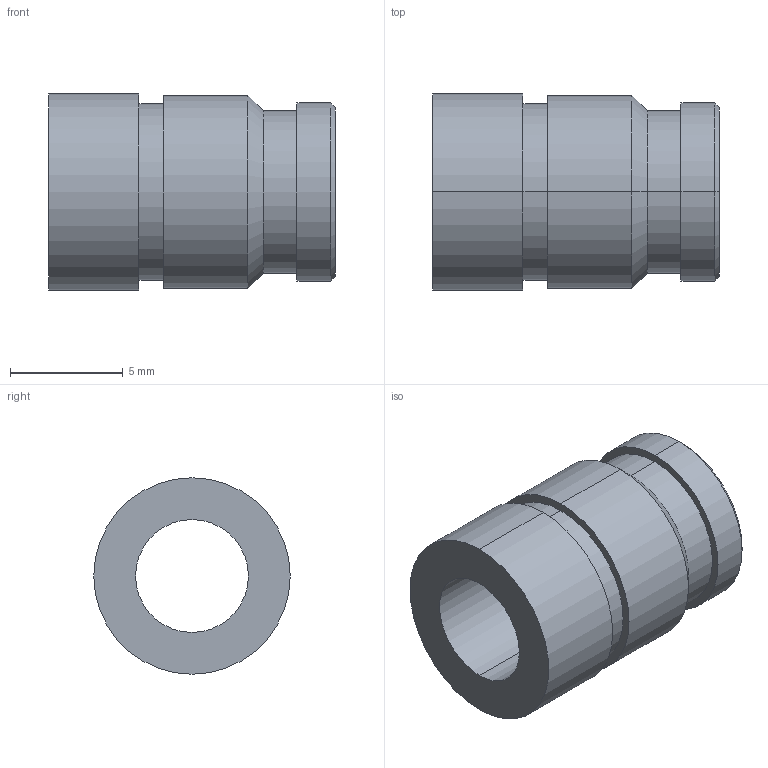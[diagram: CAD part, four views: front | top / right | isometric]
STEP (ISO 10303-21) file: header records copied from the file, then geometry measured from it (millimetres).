
FILE_DESCRIPTION (( 'STEP AP203' ), '1' );
FILE_NAME ('FSUK-HIS-M06-S.STEP', '2021-04-15T08:44:28', ( '' ), ( '' ), 'SwSTEP 2.0', 'SolidWorks 2021', '' );
FILE_SCHEMA (( 'CONFIG_CONTROL_DESIGN' ));
Length unit declared in the file: millimetre
Products named in the file (1): FSUK-HIS-M06-S
Bounding box: 12.7 x 8.7 x 8.7 mm (x, y, z)
Volume: 429.6 mm3; surface area: 627.1 mm2
Topology: 1 solids, 1 shells, 23 faces, 46 edges, 28 vertices
Faces by surface type: cylinder 12, cone 6, plane 5
Entity records: 685 total; most frequent: DIRECTION 122, CARTESIAN_POINT 98, ORIENTED_EDGE 92, AXIS2_PLACEMENT_3D 52, EDGE_CURVE 46, VERTEX_POINT 28, CIRCLE 28, EDGE_LOOP 28
